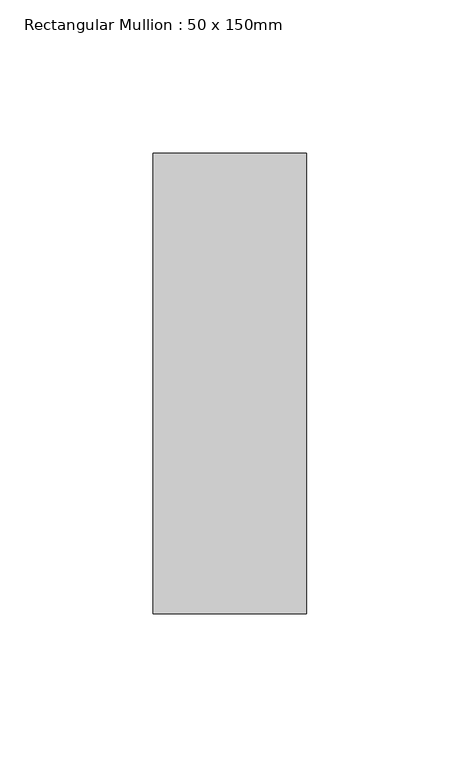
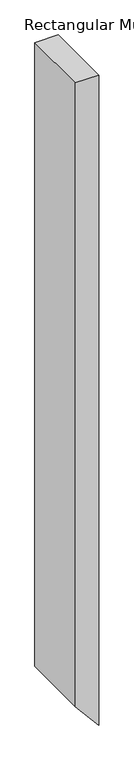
"""IFC4 building model written with IfcOpenShell, lengths in millimetres: member geometry, Rectangular Mullion : 50 x 150mm."""

from ifc_helpers import new_model, si_unit, frame, origin, place, context, project, spatial, polyline, outline, extrude, source, transform, mapped, element, save


def rectangular_mullion_50_x_150mm_25414267(model_context):
    return source(origin(), model_context, "Body", "SweptSolid", [
        extrude(outline(polyline([(0.0, 0.0), (0.1851952, -50.0), (-1410.7856181, -50.0), (-1470.4694285, 0.0), (0.0, 0.0)])), frame((0.0, -75.0, 0.0), z_axis=(0.0, 1.0, 0.0), x_axis=(0.0, 0.0, 1.0)), (0.0, 0.0, 1.0), 150.0),
    ])


if __name__ == "__main__":
    model = new_model("IFC4")
    model_context = context("Model", 3, world=origin())
    ifc_project = project(units=[si_unit("LENGTHUNIT", "METRE", prefix="MILLI")], contexts=[model_context])
    site = spatial("IfcSite", under=ifc_project)
    building = spatial("IfcBuilding", under=site)
    placement = place(None, origin())
    rectangular_mullion_50_x_150mm_shape = rectangular_mullion_50_x_150mm_25414267(model_context)
    element("IfcMember", 1, ObjectType="Rectangular Mullion : 50 x 150mm", at=placement, inside=building, context=model_context, shape_type="MappedRepresentation", body=[
        mapped(rectangular_mullion_50_x_150mm_shape, transform((0.0, 0.0, 0.0), x_axis=(1.0, 0.0, 0.0), y_axis=(0.0, 1.0, 0.0), z_axis=(0.0, 0.0, 1.0))),
    ])
    save(model, "model.ifc")
